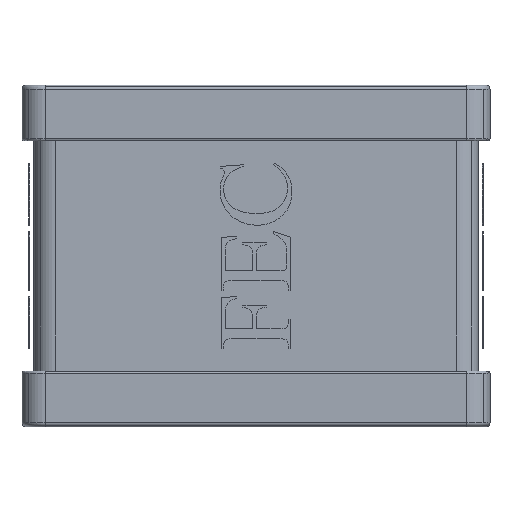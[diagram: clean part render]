
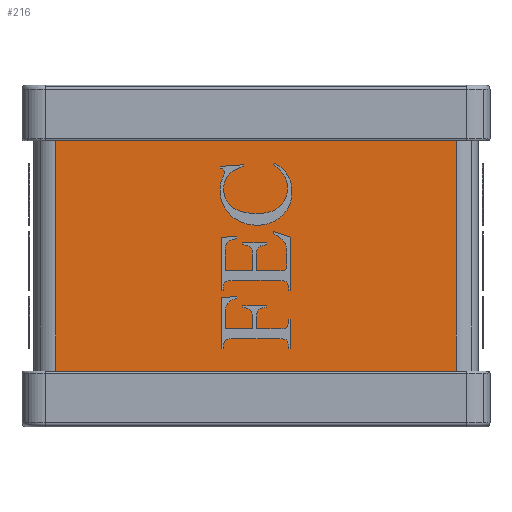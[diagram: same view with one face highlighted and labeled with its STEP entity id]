
A CAD part, top view. The second image highlights one B-rep face of the part: STEP entity #216.
In plain terms, the highlighted planar face has unit normal (0, 0, 1).
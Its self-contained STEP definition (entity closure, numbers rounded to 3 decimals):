
#216=ADVANCED_FACE('',(#1345),#1346,.T.);
#1345=FACE_OUTER_BOUND('',#3564,.T.);
#1346=PLANE('',#3565);
#3564=EDGE_LOOP('',(#5838,#5839,#5840,#5841));
#3565=AXIS2_PLACEMENT_3D('',#5842,#5843,#5844);
#5838=ORIENTED_EDGE('',*,*,#15484,.T.);
#5839=ORIENTED_EDGE('',*,*,#15464,.F.);
#5840=ORIENTED_EDGE('',*,*,#15485,.F.);
#5841=ORIENTED_EDGE('',*,*,#15482,.T.);
#5842=CARTESIAN_POINT('',(-2.693,-0.75,0.76));
#5843=DIRECTION('',(-0.0,0.0,1.0));
#5844=DIRECTION('',(1.0,-0.0,0.0));
#15464=EDGE_CURVE('',#18675,#18677,#18678,.T.);
#15482=EDGE_CURVE('',#18703,#18701,#18704,.T.);
#15484=EDGE_CURVE('',#18701,#18677,#18706,.T.);
#15485=EDGE_CURVE('',#18703,#18675,#18707,.T.);
#18675=VERTEX_POINT('',#23978);
#18677=VERTEX_POINT('',#23980);
#18678=LINE('',#23981,#23982);
#18701=VERTEX_POINT('',#24014);
#18703=VERTEX_POINT('',#24016);
#18704=LINE('',#24017,#24018);
#18706=LINE('',#24020,#24021);
#18707=LINE('',#24022,#24023);
#23978=CARTESIAN_POINT('',(2.693,-0.75,0.76));
#23980=CARTESIAN_POINT('',(2.693,-3.85,0.76));
#23981=CARTESIAN_POINT('',(2.693,-0.75,0.76));
#23982=VECTOR('',#32324,1.0);
#24014=CARTESIAN_POINT('',(-2.693,-3.85,0.76));
#24016=CARTESIAN_POINT('',(-2.693,-0.75,0.76));
#24017=CARTESIAN_POINT('',(-2.693,-0.75,0.76));
#24018=VECTOR('',#32358,1.0);
#24020=CARTESIAN_POINT('',(-2.693,-3.85,0.76));
#24021=VECTOR('',#32362,1.0);
#24022=CARTESIAN_POINT('',(-2.693,-0.75,0.76));
#24023=VECTOR('',#32363,1.0);
#32324=DIRECTION('',(0.0,-1.0,0.0));
#32358=DIRECTION('',(0.0,-1.0,0.0));
#32362=DIRECTION('',(1.0,0.0,0.0));
#32363=DIRECTION('',(1.0,0.0,0.0));
